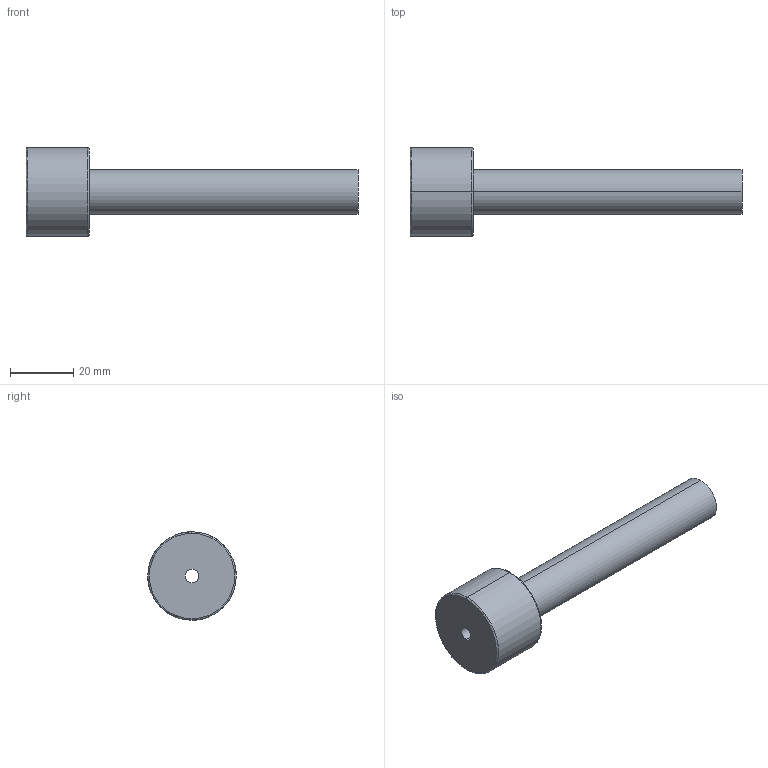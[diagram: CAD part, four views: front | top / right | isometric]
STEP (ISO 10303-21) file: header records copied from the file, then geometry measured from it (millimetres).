
FILE_DESCRIPTION(('CATIA V5 STEP Exchange'),'2;1');
FILE_NAME('C:\Users\Utente\Desktop\IO LAVORO\3D X SITO CF\X SITO\PLASTICA\3D files 367\367F-14X105.stp','2021-03-24T15:51:40+00:00',('none'),('none'),'CATIA Version 5 Release 20 GA (IN-10)','CATIA V5 STEP AP203','none');
FILE_SCHEMA(('CONFIG_CONTROL_DESIGN'));
Length unit declared in the file: millimetre
Products named in the file (1): 367F-14X105
Bounding box: 105 x 28 x 28 mm (x, y, z)
Volume: 21084.3 mm3; surface area: 8927.6 mm2
Topology: 1 solids, 1 shells, 13 faces, 42 edges, 32 vertices
Faces by surface type: torus 4, cylinder 4, plane 3, cone 2
Entity records: 614 total; most frequent: CARTESIAN_POINT 200, ORIENTED_EDGE 84, DIRECTION 60, AXIS2_PLACEMENT_3D 42, EDGE_CURVE 42, VERTEX_POINT 32, CIRCLE 28, EDGE_LOOP 16
